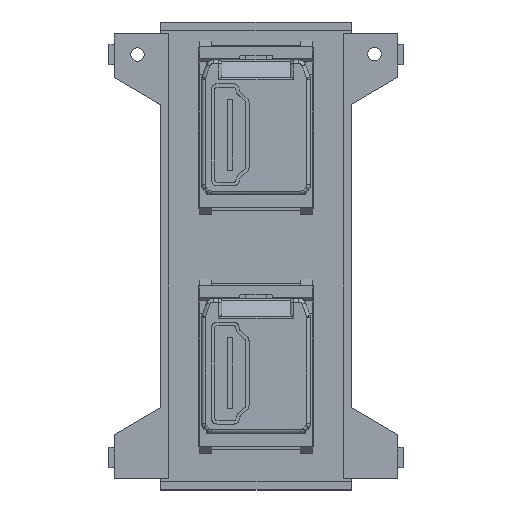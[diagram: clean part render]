
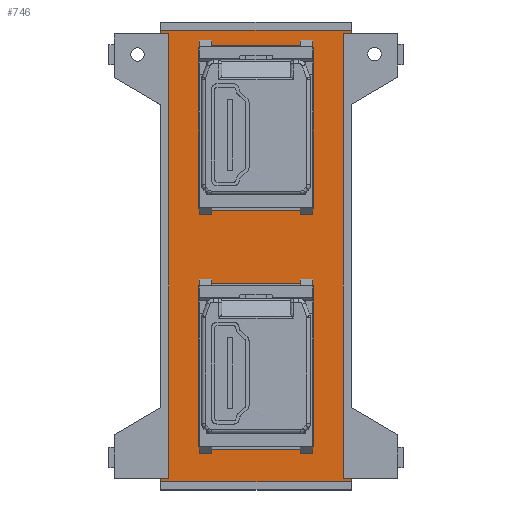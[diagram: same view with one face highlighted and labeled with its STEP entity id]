
A CAD part, top view. The second image highlights one B-rep face of the part: STEP entity #746.
In plain terms, the highlighted planar face has unit normal (0, 0, 1).
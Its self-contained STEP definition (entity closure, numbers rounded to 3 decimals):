
#260 = VERTEX_POINT('',#261);
#261 = CARTESIAN_POINT('',(-30.95,-7.9,1.2));
#267 = EDGE_CURVE('',#268,#260,#270,.T.);
#268 = VERTEX_POINT('',#269);
#269 = CARTESIAN_POINT('',(-30.95,7.9,1.2));
#270 = LINE('',#271,#272);
#271 = CARTESIAN_POINT('',(-30.95,-4.2,1.2));
#272 = VECTOR('',#273,1.);
#273 = DIRECTION('',(0.,-1.,0.));
#291 = VERTEX_POINT('',#292);
#292 = CARTESIAN_POINT('',(-30.45,-8.4,1.2));
#298 = EDGE_CURVE('',#260,#291,#299,.T.);
#299 = CIRCLE('',#300,0.5);
#300 = AXIS2_PLACEMENT_3D('',#301,#302,#303);
#301 = CARTESIAN_POINT('',(-30.45,-7.9,1.2));
#302 = DIRECTION('',(-0.,0.,1.));
#303 = DIRECTION('',(0.,-1.,0.));
#315 = EDGE_CURVE('',#268,#316,#318,.T.);
#316 = VERTEX_POINT('',#317);
#317 = CARTESIAN_POINT('',(-30.45,8.4,1.2));
#318 = CIRCLE('',#319,0.5);
#319 = AXIS2_PLACEMENT_3D('',#320,#321,#322);
#320 = CARTESIAN_POINT('',(-30.45,7.9,1.2));
#321 = DIRECTION('',(-0.,-0.,-1.));
#322 = DIRECTION('',(0.,-1.,0.));
#341 = VERTEX_POINT('',#342);
#342 = CARTESIAN_POINT('',(-7.15,-8.4,1.2));
#348 = EDGE_CURVE('',#291,#341,#349,.T.);
#349 = LINE('',#350,#351);
#350 = CARTESIAN_POINT('',(-3.325,-8.4,1.2));
#351 = VECTOR('',#352,1.);
#352 = DIRECTION('',(1.,0.,0.));
#365 = EDGE_CURVE('',#366,#316,#368,.T.);
#366 = VERTEX_POINT('',#367);
#367 = CARTESIAN_POINT('',(-7.15,8.4,1.2));
#368 = LINE('',#369,#370);
#369 = CARTESIAN_POINT('',(-15.475,8.4,1.2));
#370 = VECTOR('',#371,1.);
#371 = DIRECTION('',(-1.,0.,0.));
#389 = VERTEX_POINT('',#390);
#390 = CARTESIAN_POINT('',(-6.65,-7.9,1.2));
#396 = EDGE_CURVE('',#341,#389,#397,.T.);
#397 = CIRCLE('',#398,0.5);
#398 = AXIS2_PLACEMENT_3D('',#399,#400,#401);
#399 = CARTESIAN_POINT('',(-7.15,-7.9,1.2));
#400 = DIRECTION('',(-0.,0.,1.));
#401 = DIRECTION('',(0.,-1.,0.));
#414 = EDGE_CURVE('',#415,#366,#417,.T.);
#415 = VERTEX_POINT('',#416);
#416 = CARTESIAN_POINT('',(-6.65,7.9,1.2));
#417 = CIRCLE('',#418,0.5);
#418 = AXIS2_PLACEMENT_3D('',#419,#420,#421);
#419 = CARTESIAN_POINT('',(-7.15,7.9,1.2));
#420 = DIRECTION('',(-0.,0.,1.));
#421 = DIRECTION('',(0.,-1.,0.));
#439 = EDGE_CURVE('',#389,#415,#440,.T.);
#440 = LINE('',#441,#442);
#441 = CARTESIAN_POINT('',(-6.65,4.2,1.2));
#442 = VECTOR('',#443,1.);
#443 = DIRECTION('',(0.,1.,0.));
#556 = VERTEX_POINT('',#557);
#557 = CARTESIAN_POINT('',(4.05,-7.9,1.2));
#563 = EDGE_CURVE('',#564,#556,#566,.T.);
#564 = VERTEX_POINT('',#565);
#565 = CARTESIAN_POINT('',(4.05,7.9,1.2));
#566 = LINE('',#567,#568);
#567 = CARTESIAN_POINT('',(4.05,-4.2,1.2));
#568 = VECTOR('',#569,1.);
#569 = DIRECTION('',(0.,-1.,0.));
#587 = VERTEX_POINT('',#588);
#588 = CARTESIAN_POINT('',(4.55,-8.4,1.2));
#594 = EDGE_CURVE('',#556,#587,#595,.T.);
#595 = CIRCLE('',#596,0.5);
#596 = AXIS2_PLACEMENT_3D('',#597,#598,#599);
#597 = CARTESIAN_POINT('',(4.55,-7.9,1.2));
#598 = DIRECTION('',(-0.,0.,1.));
#599 = DIRECTION('',(0.,-1.,0.));
#611 = EDGE_CURVE('',#564,#612,#614,.T.);
#612 = VERTEX_POINT('',#613);
#613 = CARTESIAN_POINT('',(4.55,8.4,1.2));
#614 = CIRCLE('',#615,0.5);
#615 = AXIS2_PLACEMENT_3D('',#616,#617,#618);
#616 = CARTESIAN_POINT('',(4.55,7.9,1.2));
#617 = DIRECTION('',(-0.,-0.,-1.));
#618 = DIRECTION('',(0.,-1.,0.));
#637 = VERTEX_POINT('',#638);
#638 = CARTESIAN_POINT('',(27.85,-8.4,1.2));
#644 = EDGE_CURVE('',#587,#637,#645,.T.);
#645 = LINE('',#646,#647);
#646 = CARTESIAN_POINT('',(14.175,-8.4,1.2));
#647 = VECTOR('',#648,1.);
#648 = DIRECTION('',(1.,0.,0.));
#661 = EDGE_CURVE('',#662,#612,#664,.T.);
#662 = VERTEX_POINT('',#663);
#663 = CARTESIAN_POINT('',(27.85,8.4,1.2));
#664 = LINE('',#665,#666);
#665 = CARTESIAN_POINT('',(2.025,8.4,1.2));
#666 = VECTOR('',#667,1.);
#667 = DIRECTION('',(-1.,0.,0.));
#685 = VERTEX_POINT('',#686);
#686 = CARTESIAN_POINT('',(28.35,-7.9,1.2));
#692 = EDGE_CURVE('',#637,#685,#693,.T.);
#693 = CIRCLE('',#694,0.5);
#694 = AXIS2_PLACEMENT_3D('',#695,#696,#697);
#695 = CARTESIAN_POINT('',(27.85,-7.9,1.2));
#696 = DIRECTION('',(-0.,0.,1.));
#697 = DIRECTION('',(0.,-1.,0.));
#710 = EDGE_CURVE('',#711,#662,#713,.T.);
#711 = VERTEX_POINT('',#712);
#712 = CARTESIAN_POINT('',(28.35,7.9,1.2));
#713 = CIRCLE('',#714,0.5);
#714 = AXIS2_PLACEMENT_3D('',#715,#716,#717);
#715 = CARTESIAN_POINT('',(27.85,7.9,1.2));
#716 = DIRECTION('',(-0.,0.,1.));
#717 = DIRECTION('',(0.,-1.,0.));
#735 = EDGE_CURVE('',#685,#711,#736,.T.);
#736 = LINE('',#737,#738);
#737 = CARTESIAN_POINT('',(28.35,4.2,1.2));
#738 = VECTOR('',#739,1.);
#739 = DIRECTION('',(0.,1.,0.));
#746 = ADVANCED_FACE('',(#747,#757,#855),#865,.T.);
#747 = FACE_BOUND('',#748,.T.);
#748 = EDGE_LOOP('',(#749,#750,#751,#752,#753,#754,#755,#756));
#749 = ORIENTED_EDGE('',*,*,#365,.F.);
#750 = ORIENTED_EDGE('',*,*,#414,.F.);
#751 = ORIENTED_EDGE('',*,*,#439,.F.);
#752 = ORIENTED_EDGE('',*,*,#396,.F.);
#753 = ORIENTED_EDGE('',*,*,#348,.F.);
#754 = ORIENTED_EDGE('',*,*,#298,.F.);
#755 = ORIENTED_EDGE('',*,*,#267,.F.);
#756 = ORIENTED_EDGE('',*,*,#315,.T.);
#757 = FACE_BOUND('',#758,.T.);
#758 = EDGE_LOOP('',(#759,#769,#777,#785,#793,#801,#809,#817,#825,#833,
    #841,#849));
#759 = ORIENTED_EDGE('',*,*,#760,.F.);
#760 = EDGE_CURVE('',#761,#763,#765,.T.);
#761 = VERTEX_POINT('',#762);
#762 = CARTESIAN_POINT('',(-33.15,-14.,1.2));
#763 = VERTEX_POINT('',#764);
#764 = CARTESIAN_POINT('',(-33.15,14.,1.2));
#765 = LINE('',#766,#767);
#766 = CARTESIAN_POINT('',(-33.15,-14.,1.2));
#767 = VECTOR('',#768,1.);
#768 = DIRECTION('',(0.,1.,0.));
#769 = ORIENTED_EDGE('',*,*,#770,.T.);
#770 = EDGE_CURVE('',#761,#771,#773,.T.);
#771 = VERTEX_POINT('',#772);
#772 = CARTESIAN_POINT('',(-32.65,-14.,1.2));
#773 = LINE('',#774,#775);
#774 = CARTESIAN_POINT('',(-34.35,-14.,1.2));
#775 = VECTOR('',#776,1.);
#776 = DIRECTION('',(1.,0.,0.));
#777 = ORIENTED_EDGE('',*,*,#778,.F.);
#778 = EDGE_CURVE('',#779,#771,#781,.T.);
#779 = VERTEX_POINT('',#780);
#780 = CARTESIAN_POINT('',(-32.65,-12.8,1.2));
#781 = LINE('',#782,#783);
#782 = CARTESIAN_POINT('',(-32.65,-12.8,1.2));
#783 = VECTOR('',#784,1.);
#784 = DIRECTION('',(0.,-1.,0.));
#785 = ORIENTED_EDGE('',*,*,#786,.F.);
#786 = EDGE_CURVE('',#787,#779,#789,.T.);
#787 = VERTEX_POINT('',#788);
#788 = CARTESIAN_POINT('',(32.65,-12.8,1.2));
#789 = LINE('',#790,#791);
#790 = CARTESIAN_POINT('',(32.65,-12.8,1.2));
#791 = VECTOR('',#792,1.);
#792 = DIRECTION('',(-1.,0.,0.));
#793 = ORIENTED_EDGE('',*,*,#794,.F.);
#794 = EDGE_CURVE('',#795,#787,#797,.T.);
#795 = VERTEX_POINT('',#796);
#796 = CARTESIAN_POINT('',(32.65,-14.,1.2));
#797 = LINE('',#798,#799);
#798 = CARTESIAN_POINT('',(32.65,-14.,1.2));
#799 = VECTOR('',#800,1.);
#800 = DIRECTION('',(0.,1.,0.));
#801 = ORIENTED_EDGE('',*,*,#802,.T.);
#802 = EDGE_CURVE('',#795,#803,#805,.T.);
#803 = VERTEX_POINT('',#804);
#804 = CARTESIAN_POINT('',(33.15,-14.,1.2));
#805 = LINE('',#806,#807);
#806 = CARTESIAN_POINT('',(-34.35,-14.,1.2));
#807 = VECTOR('',#808,1.);
#808 = DIRECTION('',(1.,0.,0.));
#809 = ORIENTED_EDGE('',*,*,#810,.F.);
#810 = EDGE_CURVE('',#811,#803,#813,.T.);
#811 = VERTEX_POINT('',#812);
#812 = CARTESIAN_POINT('',(33.15,14.,1.2));
#813 = LINE('',#814,#815);
#814 = CARTESIAN_POINT('',(33.15,14.,1.2));
#815 = VECTOR('',#816,1.);
#816 = DIRECTION('',(0.,-1.,0.));
#817 = ORIENTED_EDGE('',*,*,#818,.T.);
#818 = EDGE_CURVE('',#811,#819,#821,.T.);
#819 = VERTEX_POINT('',#820);
#820 = CARTESIAN_POINT('',(32.65,14.,1.2));
#821 = LINE('',#822,#823);
#822 = CARTESIAN_POINT('',(34.35,14.,1.2));
#823 = VECTOR('',#824,1.);
#824 = DIRECTION('',(-1.,0.,0.));
#825 = ORIENTED_EDGE('',*,*,#826,.F.);
#826 = EDGE_CURVE('',#827,#819,#829,.T.);
#827 = VERTEX_POINT('',#828);
#828 = CARTESIAN_POINT('',(32.65,12.8,1.2));
#829 = LINE('',#830,#831);
#830 = CARTESIAN_POINT('',(32.65,12.8,1.2));
#831 = VECTOR('',#832,1.);
#832 = DIRECTION('',(0.,1.,0.));
#833 = ORIENTED_EDGE('',*,*,#834,.F.);
#834 = EDGE_CURVE('',#835,#827,#837,.T.);
#835 = VERTEX_POINT('',#836);
#836 = CARTESIAN_POINT('',(-32.65,12.8,1.2));
#837 = LINE('',#838,#839);
#838 = CARTESIAN_POINT('',(-32.65,12.8,1.2));
#839 = VECTOR('',#840,1.);
#840 = DIRECTION('',(1.,0.,0.));
#841 = ORIENTED_EDGE('',*,*,#842,.F.);
#842 = EDGE_CURVE('',#843,#835,#845,.T.);
#843 = VERTEX_POINT('',#844);
#844 = CARTESIAN_POINT('',(-32.65,14.,1.2));
#845 = LINE('',#846,#847);
#846 = CARTESIAN_POINT('',(-32.65,14.,1.2));
#847 = VECTOR('',#848,1.);
#848 = DIRECTION('',(0.,-1.,0.));
#849 = ORIENTED_EDGE('',*,*,#850,.T.);
#850 = EDGE_CURVE('',#843,#763,#851,.T.);
#851 = LINE('',#852,#853);
#852 = CARTESIAN_POINT('',(34.35,14.,1.2));
#853 = VECTOR('',#854,1.);
#854 = DIRECTION('',(-1.,0.,0.));
#855 = FACE_BOUND('',#856,.T.);
#856 = EDGE_LOOP('',(#857,#858,#859,#860,#861,#862,#863,#864));
#857 = ORIENTED_EDGE('',*,*,#661,.F.);
#858 = ORIENTED_EDGE('',*,*,#710,.F.);
#859 = ORIENTED_EDGE('',*,*,#735,.F.);
#860 = ORIENTED_EDGE('',*,*,#692,.F.);
#861 = ORIENTED_EDGE('',*,*,#644,.F.);
#862 = ORIENTED_EDGE('',*,*,#594,.F.);
#863 = ORIENTED_EDGE('',*,*,#563,.F.);
#864 = ORIENTED_EDGE('',*,*,#611,.T.);
#865 = PLANE('',#866);
#866 = AXIS2_PLACEMENT_3D('',#867,#868,#869);
#867 = CARTESIAN_POINT('',(0.,0.,1.2));
#868 = DIRECTION('',(0.,0.,1.));
#869 = DIRECTION('',(1.,0.,-0.));
